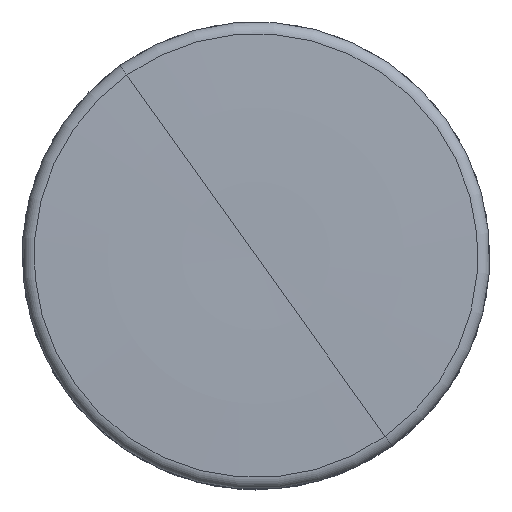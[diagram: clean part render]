
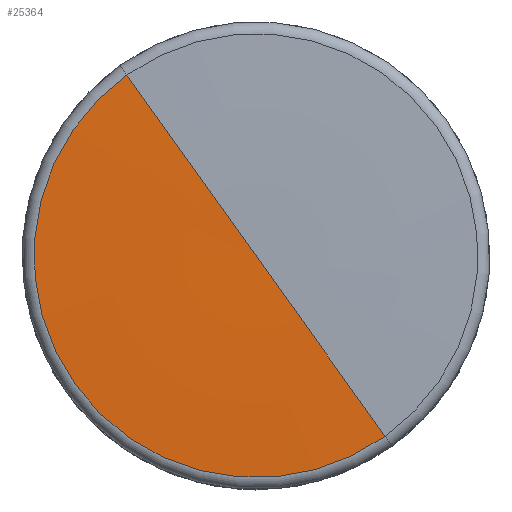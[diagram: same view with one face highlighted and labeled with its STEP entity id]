
A CAD part, top view. The second image highlights one B-rep face of the part: STEP entity #25364.
In plain terms, the highlighted toroidal (fillet/blend) face has major radius 2.646 mm and minor radius 199.979 mm.
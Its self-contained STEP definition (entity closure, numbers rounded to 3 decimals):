
#2610 = FACE_OUTER_BOUND ( 'NONE', #23927, .T. ) ;
#3425 = DIRECTION ( 'NONE',  ( 1., 0., 0. ) ) ;
#3686 = TOROIDAL_SURFACE ( 'NONE', #30507, 2.646, 199.979 ) ;
#3961 = ORIENTED_EDGE ( 'NONE', *, *, #14065, .F. ) ;
#7190 = DIRECTION ( 'NONE',  ( 0., 1., 0. ) ) ;
#8390 = VERTEX_POINT ( 'NONE', #16843 ) ;
#8474 = DIRECTION ( 'NONE',  ( 0., 0., -1. ) ) ;
#8676 = CARTESIAN_POINT ( 'NONE',  ( 0., -4.828, -198.793 ) ) ;
#10154 = AXIS2_PLACEMENT_3D ( 'NONE', #8676, #32177, #35354 ) ;
#11023 = ORIENTED_EDGE ( 'NONE', *, *, #14997, .F. ) ;
#14065 = EDGE_CURVE ( 'NONE', #8390, #42447, #41235, .T. ) ;
#14997 = EDGE_CURVE ( 'NONE', #42447, #38198, #29296, .T. ) ;
#16843 = CARTESIAN_POINT ( 'NONE',  ( 0., -7.474, 1.169 ) ) ;
#19911 = CARTESIAN_POINT ( 'NONE',  ( 0., -10.12, -198.793 ) ) ;
#21000 = DIRECTION ( 'NONE',  ( 0., 1., 0. ) ) ;
#21780 = CARTESIAN_POINT ( 'NONE',  ( 0., -16.49, 1.085 ) ) ;
#23912 = CARTESIAN_POINT ( 'NONE',  ( 0., -7.474, -198.793 ) ) ;
#23927 = EDGE_LOOP ( 'NONE', ( #3961, #34475, #11023 ) ) ;
#25364 = ADVANCED_FACE ( 'NONE', ( #2610 ), #3686, .T. ) ;
#28176 = CARTESIAN_POINT ( 'NONE',  ( 0., 1.542, 1.085 ) ) ;
#29296 = CIRCLE ( 'NONE', #36013, 9.016 ) ;
#30507 = AXIS2_PLACEMENT_3D ( 'NONE', #23912, #30617, #21000 ) ;
#30617 = DIRECTION ( 'NONE',  ( 0., 0., -1. ) ) ;
#32177 = DIRECTION ( 'NONE',  ( -1., 0., 0. ) ) ;
#34069 = CIRCLE ( 'NONE', #10154, 199.979 ) ;
#34475 = ORIENTED_EDGE ( 'NONE', *, *, #34620, .T. ) ;
#34620 = EDGE_CURVE ( 'NONE', #8390, #38198, #34069, .T. ) ;
#35354 = DIRECTION ( 'NONE',  ( 0., 0., 1. ) ) ;
#36013 = AXIS2_PLACEMENT_3D ( 'NONE', #41524, #8474, #41248 ) ;
#38198 = VERTEX_POINT ( 'NONE', #28176 ) ;
#41235 = CIRCLE ( 'NONE', #42088, 199.979 ) ;
#41248 = DIRECTION ( 'NONE',  ( 0., 1., 0. ) ) ;
#41524 = CARTESIAN_POINT ( 'NONE',  ( 0., -7.474, 1.085 ) ) ;
#42088 = AXIS2_PLACEMENT_3D ( 'NONE', #19911, #3425, #7190 ) ;
#42447 = VERTEX_POINT ( 'NONE', #21780 ) ;
